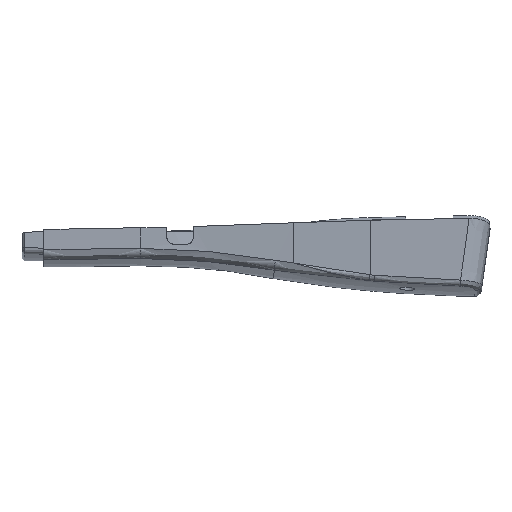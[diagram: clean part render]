
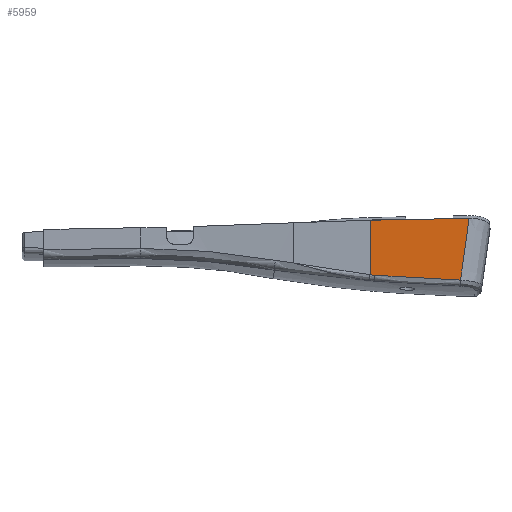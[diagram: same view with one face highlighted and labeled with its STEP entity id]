
A CAD part, front view. The second image highlights one B-rep face of the part: STEP entity #5959.
In plain terms, the highlighted free-form (B-spline) face has degree [1, 3] with [2, 4] control points.
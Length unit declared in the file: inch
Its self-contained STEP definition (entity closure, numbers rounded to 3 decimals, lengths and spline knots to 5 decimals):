
#467 = CARTESIAN_POINT ( 'NONE',  ( 5.88579, -0.88225, -2.99382 ) ) ;
#557 = CARTESIAN_POINT ( 'NONE',  ( 5.94303, -0.88195, -2.99944 ) ) ;
#813 = CARTESIAN_POINT ( 'NONE',  ( 7.64321, -0.91652, -2.17571 ) ) ;
#1208 = CARTESIAN_POINT ( 'NONE',  ( 7.00039, -0.87766, -3.07797 ) ) ;
#1305 = CARTESIAN_POINT ( 'NONE',  ( 8.04725, -0.92733, -1.92046 ) ) ;
#1318 = LINE ( 'NONE', #6980, #3422 ) ;
#2635 = B_SPLINE_CURVE_WITH_KNOTS ( 'NONE', 3,
 ( #5092, #10912, #3989, #9376, #16469, #813, #10823 ),
 .UNSPECIFIED., .F., .F.,
 ( 4, 3, 4 ),
 ( 0.0021, 0.01534, 0.03069 ),
 .UNSPECIFIED. ) ;
#3422 = VECTOR ( 'NONE', #6898, 39.37008 ) ;
#3695 = VERTEX_POINT ( 'NONE', #4922 ) ;
#3954 = CARTESIAN_POINT ( 'NONE',  ( 7.32677, -0.92733, -1.93406 ) ) ;
#3989 = CARTESIAN_POINT ( 'NONE',  ( 7.56386, -0.89168, -2.74615 ) ) ;
#4021 = CARTESIAN_POINT ( 'NONE',  ( 7.51601, -0.87671, -3.09 ) ) ;
#4831 = CARTESIAN_POINT ( 'NONE',  ( 5.9144, -0.8821, -2.9967 ) ) ;
#4922 = CARTESIAN_POINT ( 'NONE',  ( 7.67092, -0.9252, -1.97645 ) ) ;
#5092 = CARTESIAN_POINT ( 'NONE',  ( 7.51601, -0.87671, -3.09 ) ) ;
#5127 = CARTESIAN_POINT ( 'NONE',  ( 6.48532, -0.87936, -3.04864 ) ) ;
#5237 = CARTESIAN_POINT ( 'NONE',  ( 5.88577, -0.86118, -3.47629 ) ) ;
#5420 = CARTESIAN_POINT ( 'NONE',  ( 6.6063, -0.92733, -1.94764 ) ) ;
#5959 = ADVANCED_FACE ( 'NONE', ( #15974 ), #12025, .T. ) ;
#6362 = VERTEX_POINT ( 'NONE', #16997 ) ;
#6713 = EDGE_CURVE ( 'NONE', #12632, #6362, #17051, .T. ) ;
#6898 = DIRECTION ( 'NONE',  ( 0., -0.044, 0.999 ) ) ;
#6980 = CARTESIAN_POINT ( 'NONE',  ( 5.88583, -0.9252, -2.01008 ) ) ;
#7205 = VERTEX_POINT ( 'NONE', #10854 ) ;
#7707 = CARTESIAN_POINT ( 'NONE',  ( 5.88583, -0.92733, -1.9612 ) ) ;
#8289 = EDGE_CURVE ( 'NONE', #7205, #12632, #9137, .T. ) ;
#9137 = B_SPLINE_CURVE_WITH_KNOTS ( 'NONE', 3,
 ( #467, #4831, #557, #11669 ),
 .UNSPECIFIED., .F., .F.,
 ( 4, 4 ),
 ( 0., 0.00219 ),
 .UNSPECIFIED. ) ;
#9376 = CARTESIAN_POINT ( 'NONE',  ( 7.58778, -0.89917, -2.57423 ) ) ;
#9421 = CARTESIAN_POINT ( 'NONE',  ( 7.32672, -0.86118, -3.44916 ) ) ;
#9848 = ORIENTED_EDGE ( 'NONE', *, *, #8289, .T. ) ;
#10655 = EDGE_CURVE ( 'NONE', #7205, #15032, #1318, .T. ) ;
#10736 = CARTESIAN_POINT ( 'NONE',  ( 5.97167, -0.88182, -3.00204 ) ) ;
#10823 = CARTESIAN_POINT ( 'NONE',  ( 7.67092, -0.9252, -1.97645 ) ) ;
#10854 = CARTESIAN_POINT ( 'NONE',  ( 5.88579, -0.88225, -2.99382 ) ) ;
#10872 = CARTESIAN_POINT ( 'NONE',  ( 6.60625, -0.86118, -3.46274 ) ) ;
#10912 = CARTESIAN_POINT ( 'NONE',  ( 7.53994, -0.88419, -2.91808 ) ) ;
#11669 = CARTESIAN_POINT ( 'NONE',  ( 5.97167, -0.88182, -3.00204 ) ) ;
#11731 = EDGE_CURVE ( 'NONE', #15032, #3695, #14053, .T. ) ;
#12025 = B_SPLINE_SURFACE_WITH_KNOTS ( 'NONE', 1, 3, ( 
 ( #7707, #5420, #3954, #1305 ),
 ( #5237, #10872, #9421, #12335 ) ),
 .UNSPECIFIED., .F., .F., .F.,
 ( 2, 2 ),
 ( 4, 4 ),
 ( 0., 1. ),
 ( 0., 0.05491 ),
 .UNSPECIFIED. ) ;
#12335 = CARTESIAN_POINT ( 'NONE',  ( 8.04719, -0.86118, -3.43555 ) ) ;
#12423 = EDGE_CURVE ( 'NONE', #6362, #3695, #2635, .T. ) ;
#12491 = CARTESIAN_POINT ( 'NONE',  ( 5.97167, -0.88182, -3.00204 ) ) ;
#12632 = VERTEX_POINT ( 'NONE', #10736 ) ;
#12849 = CARTESIAN_POINT ( 'NONE',  ( 5.88583, -0.9252, -2.01008 ) ) ;
#13400 = EDGE_LOOP ( 'NONE', ( #16384, #9848, #15321, #14528, #15811 ) ) ;
#14053 = B_SPLINE_CURVE_WITH_KNOTS ( 'NONE', 3,
 ( #12849, #17319, #17132, #15953 ),
 .UNSPECIFIED., .F., .F.,
 ( 4, 4 ),
 ( 0., 0.04535 ),
 .UNSPECIFIED. ) ;
#14528 = ORIENTED_EDGE ( 'NONE', *, *, #12423, .T. ) ;
#14949 = CARTESIAN_POINT ( 'NONE',  ( 5.88583, -0.9252, -2.01008 ) ) ;
#15032 = VERTEX_POINT ( 'NONE', #14949 ) ;
#15321 = ORIENTED_EDGE ( 'NONE', *, *, #6713, .T. ) ;
#15811 = ORIENTED_EDGE ( 'NONE', *, *, #11731, .F. ) ;
#15953 = CARTESIAN_POINT ( 'NONE',  ( 7.67092, -0.9252, -1.97645 ) ) ;
#15974 = FACE_OUTER_BOUND ( 'NONE', #13400, .T. ) ;
#16384 = ORIENTED_EDGE ( 'NONE', *, *, #10655, .F. ) ;
#16469 = CARTESIAN_POINT ( 'NONE',  ( 7.6155, -0.90784, -2.37497 ) ) ;
#16997 = CARTESIAN_POINT ( 'NONE',  ( 7.51601, -0.87671, -3.09 ) ) ;
#17051 = B_SPLINE_CURVE_WITH_KNOTS ( 'NONE', 3,
 ( #12491, #5127, #1208, #4021 ),
 .UNSPECIFIED., .F., .F.,
 ( 4, 4 ),
 ( 0., 0.0393 ),
 .UNSPECIFIED. ) ;
#17132 = CARTESIAN_POINT ( 'NONE',  ( 7.07589, -0.9252, -1.98768 ) ) ;
#17319 = CARTESIAN_POINT ( 'NONE',  ( 6.48086, -0.9252, -1.99889 ) ) ;
